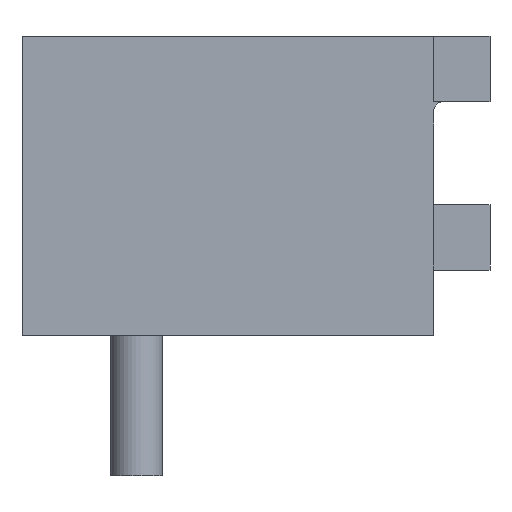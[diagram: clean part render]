
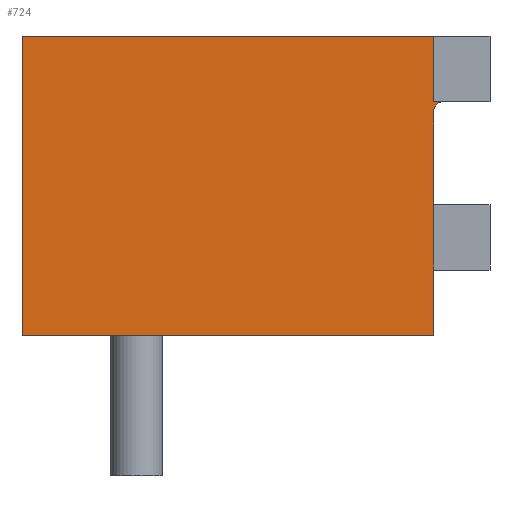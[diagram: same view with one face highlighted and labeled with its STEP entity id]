
A CAD part, front view. The second image highlights one B-rep face of the part: STEP entity #724.
In plain terms, the highlighted planar face has unit normal (0, -1, 0).
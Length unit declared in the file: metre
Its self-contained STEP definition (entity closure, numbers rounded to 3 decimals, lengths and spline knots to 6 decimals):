
#42=LINE('',#1048,#121);
#44=LINE('',#1053,#123);
#57=LINE('',#1101,#136);
#64=LINE('',#1125,#143);
#81=LINE('',#1161,#160);
#91=LINE('',#1179,#170);
#92=LINE('',#1180,#171);
#93=LINE('',#1181,#172);
#121=VECTOR('',#851,1.);
#123=VECTOR('',#859,1.);
#136=VECTOR('',#882,1.);
#143=VECTOR('',#897,1.);
#160=VECTOR('',#922,1.);
#170=VECTOR('',#936,1.);
#171=VECTOR('',#937,1.);
#172=VECTOR('',#938,1.);
#291=ORIENTED_EDGE('',*,*,#427,.F.);
#292=ORIENTED_EDGE('',*,*,#422,.T.);
#293=ORIENTED_EDGE('',*,*,#461,.F.);
#294=ORIENTED_EDGE('',*,*,#451,.F.);
#295=ORIENTED_EDGE('',*,*,#432,.T.);
#296=ORIENTED_EDGE('',*,*,#462,.T.);
#297=ORIENTED_EDGE('',*,*,#404,.F.);
#298=ORIENTED_EDGE('',*,*,#402,.F.);
#299=ORIENTED_EDGE('',*,*,#463,.F.);
#402=EDGE_CURVE('',#487,#491,#42,.T.);
#404=EDGE_CURVE('',#491,#497,#44,.T.);
#422=EDGE_CURVE('',#512,#511,#57,.T.);
#427=EDGE_CURVE('',#512,#514,#556,.F.);
#432=EDGE_CURVE('',#520,#519,#64,.T.);
#451=EDGE_CURVE('',#520,#535,#81,.T.);
#461=EDGE_CURVE('',#535,#511,#91,.T.);
#462=EDGE_CURVE('',#519,#497,#92,.T.);
#463=EDGE_CURVE('',#514,#487,#93,.T.);
#487=VERTEX_POINT('',#1021);
#491=VERTEX_POINT('',#1031);
#497=VERTEX_POINT('',#1054);
#511=VERTEX_POINT('',#1100);
#512=VERTEX_POINT('',#1102);
#514=VERTEX_POINT('',#1108);
#519=VERTEX_POINT('',#1124);
#520=VERTEX_POINT('',#1126);
#535=VERTEX_POINT('',#1162);
#556=CIRCLE('',#779,0.001);
#587=EDGE_LOOP('',(#291,#292,#293,#294,#295,#296,#297,#298,#299));
#644=FACE_BOUND('',#587,.T.);
#692=PLANE('',#786);
#724=ADVANCED_FACE('',(#644),#692,.F.);
#779=AXIS2_PLACEMENT_3D('',#1114,#889,#890);
#786=AXIS2_PLACEMENT_3D('',#1178,#934,#935);
#851=DIRECTION('',(0.,0.,-1.));
#859=DIRECTION('',(0.,0.,-1.));
#882=DIRECTION('',(-1.,0.,0.));
#889=DIRECTION('',(0.,1.,0.));
#890=DIRECTION('',(0.,0.,1.));
#897=DIRECTION('',(0.,0.,-1.));
#922=DIRECTION('',(1.,0.,0.));
#934=DIRECTION('',(0.,1.,0.));
#935=DIRECTION('',(0.,0.,1.));
#936=DIRECTION('',(0.,0.,-1.));
#937=DIRECTION('',(1.,0.,0.));
#938=DIRECTION('',(0.,0.,-1.));
#1021=CARTESIAN_POINT('',(0.022035,-0.012,0.1692));
#1031=CARTESIAN_POINT('',(0.022035,-0.012,0.1622));
#1048=CARTESIAN_POINT('',(0.022035,-0.012,0.1872));
#1053=CARTESIAN_POINT('',(0.022035,-0.012,0.1872));
#1054=CARTESIAN_POINT('',(0.022035,-0.012,0.1552));
#1100=CARTESIAN_POINT('',(0.022035,-0.012,0.1802));
#1101=CARTESIAN_POINT('',(0.025035,-0.012,0.1802));
#1102=CARTESIAN_POINT('',(0.023035,-0.012,0.1802));
#1108=CARTESIAN_POINT('',(0.022035,-0.012,0.1792));
#1114=CARTESIAN_POINT('',(0.023035,-0.012,0.1792));
#1124=CARTESIAN_POINT('',(-0.021965,-0.012,0.1552));
#1125=CARTESIAN_POINT('',(-0.021965,-0.012,0.1872));
#1126=CARTESIAN_POINT('',(-0.021965,-0.012,0.1872));
#1161=CARTESIAN_POINT('',(0.000035,-0.012,0.1872));
#1162=CARTESIAN_POINT('',(0.022035,-0.012,0.1872));
#1178=CARTESIAN_POINT('',(0.000035,-0.012,0.1872));
#1179=CARTESIAN_POINT('',(0.022035,-0.012,0.1837));
#1180=CARTESIAN_POINT('',(0.000035,-0.012,0.1552));
#1181=CARTESIAN_POINT('',(0.022035,-0.012,0.1872));
